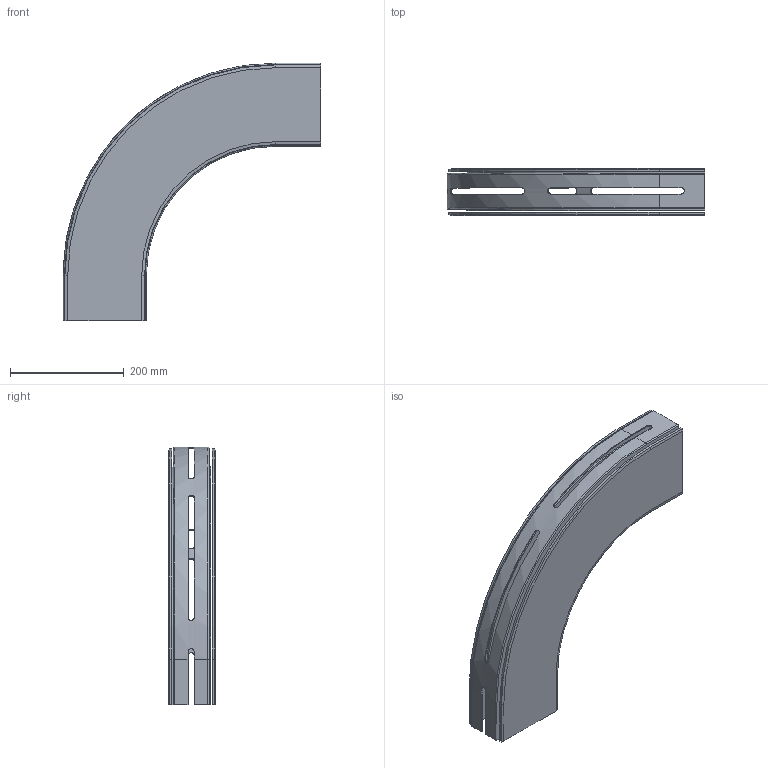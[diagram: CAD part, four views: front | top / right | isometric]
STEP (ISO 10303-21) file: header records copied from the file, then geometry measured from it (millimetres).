
FILE_DESCRIPTION(/* description */ ('GLIDKURVA SERIE 540'),/* implementation_level */ '2;1');
FILE_NAME(/* name */ '540-5375+140-2000-01.stp',/* time_stamp */ '2022-09-21T08:15:26+02:00',/* author */ ('Mathias.Dore'),/* organization */ ('CARRYLINE'),/* preprocessor_version */ 'ST-DEVELOPER v19.2',/* originating_system */ 'Autodesk Inventor 2023',/* authorisation */ '');
FILE_SCHEMA (('AUTOMOTIVE_DESIGN { 1 0 10303 214 3 1 1 }'));
Length unit declared in the file: millimetre
Products named in the file (1): 540-5375+140-2000-01
Bounding box: 453 x 82 x 453 mm (x, y, z)
Volume: 1426016.1 mm3; surface area: 735656.8 mm2
Topology: 2 solids, 2 shells, 171 faces, 482 edges, 316 vertices
Faces by surface type: plane 111, cylinder 30, bspline 22, cone 4, torus 4
Entity records: 6101 total; most frequent: CARTESIAN_POINT 1628, ORIENTED_EDGE 964, DIRECTION 830, EDGE_CURVE 482, LINE 346, VECTOR 346, VERTEX_POINT 316, AXIS2_PLACEMENT_3D 242
